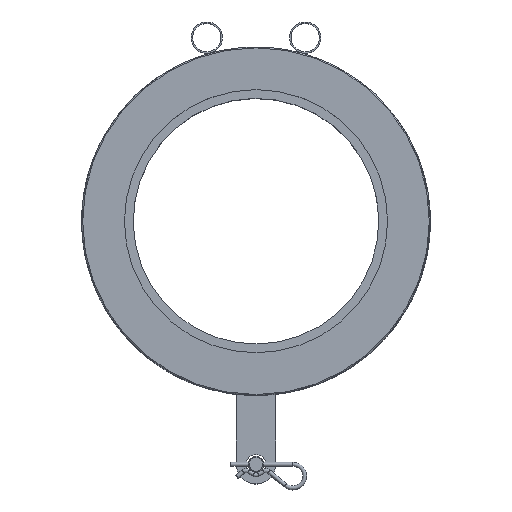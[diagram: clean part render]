
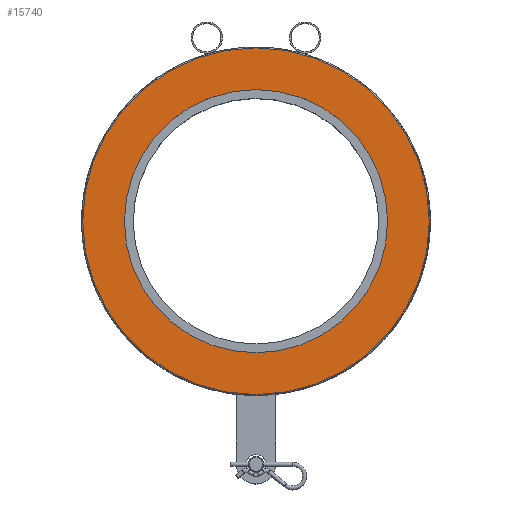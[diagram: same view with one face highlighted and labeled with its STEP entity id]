
A CAD part, top view. The second image highlights one B-rep face of the part: STEP entity #15740.
In plain terms, the highlighted planar face has unit normal (0, 0, 1).
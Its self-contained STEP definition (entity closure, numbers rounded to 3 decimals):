
#511=FACE_BOUND('',#3488,.T.);
#1697=PLANE('',#16595);
#2550=FACE_OUTER_BOUND('',#3487,.T.);
#3487=EDGE_LOOP('',(#14569));
#3488=EDGE_LOOP('',(#14570));
#6078=CIRCLE('',#16591,134.);
#6079=CIRCLE('',#16593,176.5);
#7629=VERTEX_POINT('',#37691);
#7630=VERTEX_POINT('',#37695);
#9950=EDGE_CURVE('',#7629,#7629,#6078,.T.);
#9952=EDGE_CURVE('',#7630,#7630,#6079,.T.);
#14569=ORIENTED_EDGE('',*,*,#9952,.F.);
#14570=ORIENTED_EDGE('',*,*,#9950,.T.);
#15740=ADVANCED_FACE('',(#2550,#511),#1697,.T.);
#16591=AXIS2_PLACEMENT_3D('',#37692,#19311,#19312);
#16593=AXIS2_PLACEMENT_3D('',#37696,#19316,#19317);
#16595=AXIS2_PLACEMENT_3D('',#37699,#19321,#19322);
#19311=DIRECTION('center_axis',(0.,0.,
-1.));
#19312=DIRECTION('ref_axis',(-1.,0.,0.));
#19316=DIRECTION('center_axis',(0.,0.,
-1.));
#19317=DIRECTION('ref_axis',(-1.,0.,0.));
#19321=DIRECTION('center_axis',(0.,0.,
1.));
#19322=DIRECTION('ref_axis',(-1.,0.,0.));
#37691=CARTESIAN_POINT('',(134.,0.,112.));
#37692=CARTESIAN_POINT('Origin',(0.,0.,
112.));
#37695=CARTESIAN_POINT('',(176.5,0.,112.));
#37696=CARTESIAN_POINT('Origin',(0.,0.,
112.));
#37699=CARTESIAN_POINT('Origin',(0.,0.,
112.));
